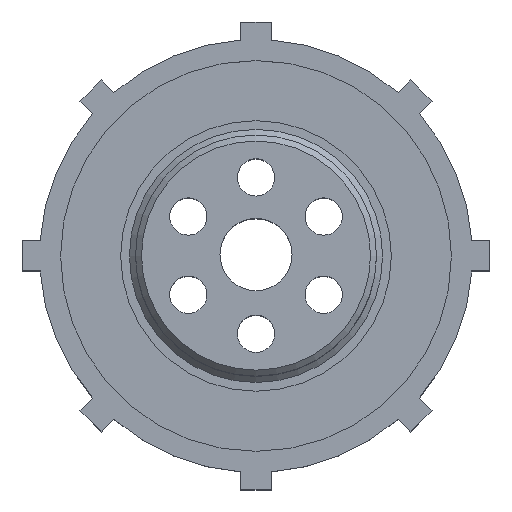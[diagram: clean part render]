
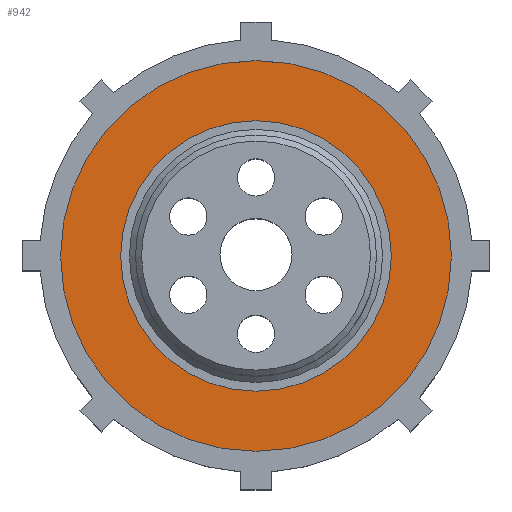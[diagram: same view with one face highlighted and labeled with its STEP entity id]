
A CAD part, top view. The second image highlights one B-rep face of the part: STEP entity #942.
In plain terms, the highlighted planar face has unit normal (0, 0, 1).
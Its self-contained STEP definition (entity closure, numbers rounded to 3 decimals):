
#17=FACE_BOUND('',#123,.T.);
#36=PLANE('',#1013);
#69=FACE_OUTER_BOUND('',#122,.T.);
#122=EDGE_LOOP('',(#656));
#123=EDGE_LOOP('',(#657));
#381=CIRCLE('',#1009,22.5);
#383=CIRCLE('',#1012,32.5);
#423=VERTEX_POINT('',#1392);
#425=VERTEX_POINT('',#1398);
#514=EDGE_CURVE('',#423,#423,#381,.T.);
#517=EDGE_CURVE('',#425,#425,#383,.T.);
#656=ORIENTED_EDGE('',*,*,#517,.F.);
#657=ORIENTED_EDGE('',*,*,#514,.F.);
#942=ADVANCED_FACE('',(#69,#17),#36,.T.);
#1009=AXIS2_PLACEMENT_3D('',#1394,#1109,#1110);
#1012=AXIS2_PLACEMENT_3D('',#1400,#1116,#1117);
#1013=AXIS2_PLACEMENT_3D('',#1401,#1118,#1119);
#1109=DIRECTION('center_axis',(0.,0.,1.));
#1110=DIRECTION('ref_axis',(1.,0.,0.));
#1116=DIRECTION('center_axis',(0.,0.,-1.));
#1117=DIRECTION('ref_axis',(1.,0.,0.));
#1118=DIRECTION('center_axis',(0.,0.,1.));
#1119=DIRECTION('ref_axis',(1.,0.,0.));
#1392=CARTESIAN_POINT('',(-336.171,-297.455,-1.1));
#1394=CARTESIAN_POINT('Origin',(-313.671,-297.455,-1.1));
#1398=CARTESIAN_POINT('',(-346.171,-297.455,-1.1));
#1400=CARTESIAN_POINT('Origin',(-313.671,-297.455,-1.1));
#1401=CARTESIAN_POINT('Origin',(-313.671,-297.455,-1.1));
